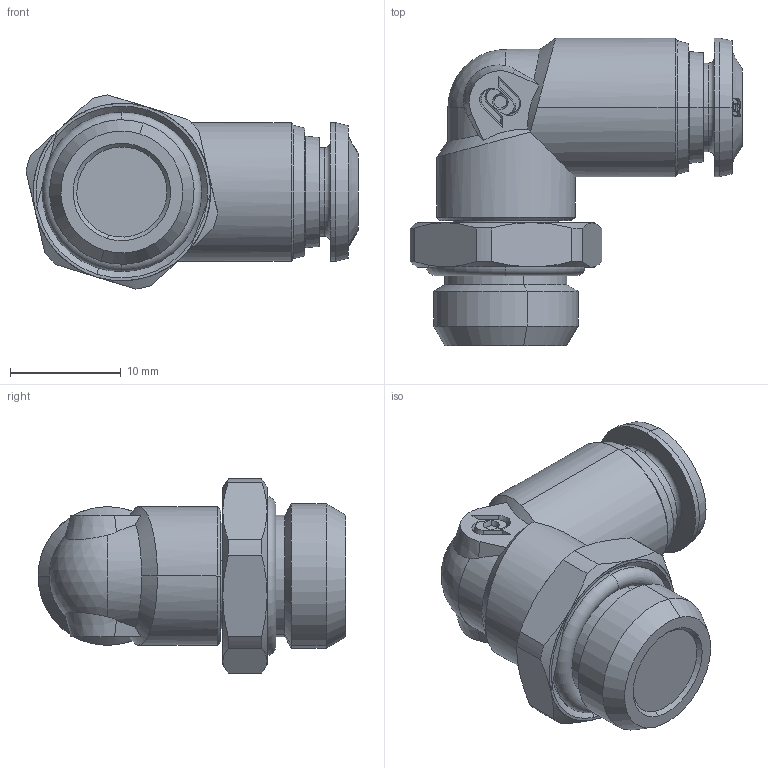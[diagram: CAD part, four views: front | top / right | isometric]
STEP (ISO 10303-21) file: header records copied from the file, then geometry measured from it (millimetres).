
FILE_DESCRIPTION (( 'STEP AP214' ), '1' );
FILE_NAME ('5011600009.step', '2012-10-01T16:45:20', ( '' ), ( '' ), 'SwSTEP 2.0', 'SolidWorks 2012', '' );
FILE_SCHEMA (( 'AUTOMOTIVE_DESIGN' ));
Length unit declared in the file: millimetre
Products named in the file (1): 5011600009
Bounding box: 29.95 x 27.75 x 17.52 mm (x, y, z)
Volume: 5095.4 mm3; surface area: 2681.7 mm2
Topology: 2 solids, 2 shells, 222 faces, 538 edges, 337 vertices
Faces by surface type: cone 73, bspline 51, plane 51, cylinder 32, torus 14, sphere 1
Entity records: 12291 total; most frequent: CARTESIAN_POINT 5195, ORIENTED_EDGE 1076, DIRECTION 811, EDGE_CURVE 538, VERTEX_POINT 337, AXIS2_PLACEMENT_3D 336, EDGE_LOOP 241, B_SPLINE_CURVE_WITH_KNOTS 225
